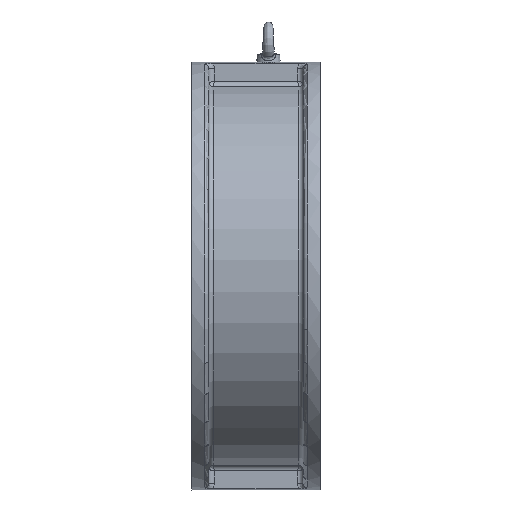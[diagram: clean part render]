
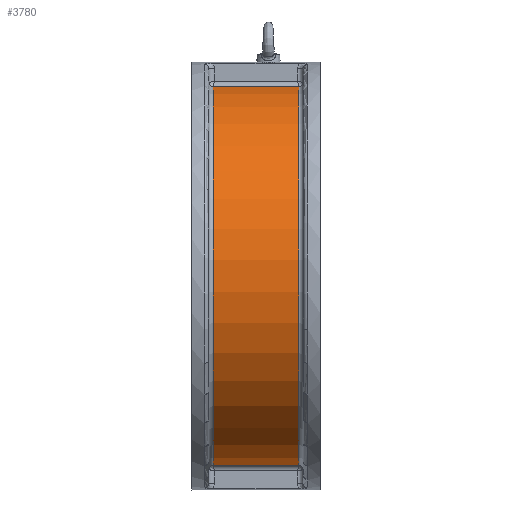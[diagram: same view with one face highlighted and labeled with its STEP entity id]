
A CAD part, left-side view. The second image highlights one B-rep face of the part: STEP entity #3780.
In plain terms, the highlighted cylindrical face has radius 170 mm (diameter 340 mm), a partial arc.
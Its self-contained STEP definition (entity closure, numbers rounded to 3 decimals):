
#159 = ORIENTED_EDGE ( 'NONE', *, *, #4117, .T. ) ;
#601 = EDGE_CURVE ( 'NONE', #7666, #10387, #10035, .T. ) ;
#655 = CARTESIAN_POINT ( 'NONE',  ( 3157.121, 1305.563, 167.949 ) ) ;
#809 = LINE ( 'NONE', #2650, #2777 ) ;
#921 = AXIS2_PLACEMENT_3D ( 'NONE', #7927, #7180, #3893 ) ;
#1060 = B_SPLINE_CURVE_WITH_KNOTS ( 'NONE', 3,
 ( #8356, #9978, #5140, #9252 ),
 .UNSPECIFIED., .F., .F.,
 ( 4, 4 ),
 ( 0., 0. ),
 .UNSPECIFIED. ) ;
#1112 = CARTESIAN_POINT ( 'NONE',  ( 3157.07, 1305.563, -167.941 ) ) ;
#1279 = DIRECTION ( 'NONE',  ( 0., -1., 0. ) ) ;
#1602 = ORIENTED_EDGE ( 'NONE', *, *, #5311, .T. ) ;
#1847 = CARTESIAN_POINT ( 'NONE',  ( 3157.221, 1305.575, -167.964 ) ) ;
#2145 = DIRECTION ( 'NONE',  ( 1., 0., 0. ) ) ;
#2182 = CARTESIAN_POINT ( 'NONE',  ( 3157.07, 1381.563, -167.941 ) ) ;
#2257 = DIRECTION ( 'NONE',  ( 0., 1., 0. ) ) ;
#2269 = EDGE_CURVE ( 'NONE', #10387, #4897, #5200, .T. ) ;
#2288 = CARTESIAN_POINT ( 'NONE',  ( 3157.07, 1305.563, 167.941 ) ) ;
#2392 = CIRCLE ( 'NONE', #10490, 170. ) ;
#2650 = CARTESIAN_POINT ( 'NONE',  ( 3157.221, 1279.568, -167.964 ) ) ;
#2720 = VERTEX_POINT ( 'NONE', #1847 ) ;
#2777 = VECTOR ( 'NONE', #7536, 1000. ) ;
#2942 = VERTEX_POINT ( 'NONE', #2182 ) ;
#2959 = EDGE_CURVE ( 'NONE', #2720, #6456, #9209, .T. ) ;
#3117 = CARTESIAN_POINT ( 'NONE',  ( 3157.171, 1305.567, 167.957 ) ) ;
#3189 = ORIENTED_EDGE ( 'NONE', *, *, #5855, .T. ) ;
#3633 = CARTESIAN_POINT ( 'NONE',  ( 3157.07, 1381.563, 167.941 ) ) ;
#3660 = VECTOR ( 'NONE', #2257, 1000. ) ;
#3698 = CARTESIAN_POINT ( 'NONE',  ( 3157.221, 1381.551, 167.964 ) ) ;
#3761 = CARTESIAN_POINT ( 'NONE',  ( 3157.121, 1305.563, -167.949 ) ) ;
#3775 = DIRECTION ( 'NONE',  ( 1., 0., 0. ) ) ;
#3780 = ADVANCED_FACE ( 'NONE', ( #6603 ), #9828, .T. ) ;
#3801 = ORIENTED_EDGE ( 'NONE', *, *, #2959, .T. ) ;
#3893 = DIRECTION ( 'NONE',  ( 1., 0., 0. ) ) ;
#4117 = EDGE_CURVE ( 'NONE', #2942, #9545, #1060, .T. ) ;
#4728 = CARTESIAN_POINT ( 'NONE',  ( 3157.221, 1305.575, -167.964 ) ) ;
#4897 = VERTEX_POINT ( 'NONE', #6563 ) ;
#4908 = ORIENTED_EDGE ( 'NONE', *, *, #2269, .T. ) ;
#5140 = CARTESIAN_POINT ( 'NONE',  ( 3157.171, 1381.559, -167.957 ) ) ;
#5200 = LINE ( 'NONE', #8570, #3660 ) ;
#5245 = CARTESIAN_POINT ( 'NONE',  ( 3157.171, 1381.559, 167.957 ) ) ;
#5311 = EDGE_CURVE ( 'NONE', #7244, #2942, #8257, .T. ) ;
#5354 = CARTESIAN_POINT ( 'NONE',  ( 3157.07, 1381.563, 167.941 ) ) ;
#5453 = CARTESIAN_POINT ( 'NONE',  ( 3157.171, 1305.567, -167.957 ) ) ;
#5460 = B_SPLINE_CURVE_WITH_KNOTS ( 'NONE', 3,
 ( #3698, #5245, #10297, #5354 ),
 .UNSPECIFIED., .F., .F.,
 ( 4, 4 ),
 ( 0., 0. ),
 .UNSPECIFIED. ) ;
#5581 = CARTESIAN_POINT ( 'NONE',  ( 3157.221, 1305.575, 167.964 ) ) ;
#5855 = EDGE_CURVE ( 'NONE', #4897, #7244, #5460, .T. ) ;
#6212 = DIRECTION ( 'NONE',  ( 0., -1., 0. ) ) ;
#6251 = ORIENTED_EDGE ( 'NONE', *, *, #601, .T. ) ;
#6257 = CARTESIAN_POINT ( 'NONE',  ( 3157.07, 1305.563, -167.941 ) ) ;
#6456 = VERTEX_POINT ( 'NONE', #1112 ) ;
#6563 = CARTESIAN_POINT ( 'NONE',  ( 3157.221, 1381.551, 167.964 ) ) ;
#6603 = FACE_OUTER_BOUND ( 'NONE', #8377, .T. ) ;
#7091 = ORIENTED_EDGE ( 'NONE', *, *, #8268, .F. ) ;
#7180 = DIRECTION ( 'NONE',  ( 0., -1., 0. ) ) ;
#7244 = VERTEX_POINT ( 'NONE', #3633 ) ;
#7536 = DIRECTION ( 'NONE',  ( 0., -1., 0. ) ) ;
#7633 = EDGE_CURVE ( 'NONE', #9545, #2720, #809, .T. ) ;
#7666 = VERTEX_POINT ( 'NONE', #10066 ) ;
#7927 = CARTESIAN_POINT ( 'NONE',  ( 3183.45, 1381.563, 0. ) ) ;
#7958 = CARTESIAN_POINT ( 'NONE',  ( 3183.45, 1305.563, 0. ) ) ;
#7990 = CARTESIAN_POINT ( 'NONE',  ( 3157.221, 1381.551, -167.964 ) ) ;
#8257 = CIRCLE ( 'NONE', #921, 170. ) ;
#8268 = EDGE_CURVE ( 'NONE', #7666, #6456, #2392, .T. ) ;
#8356 = CARTESIAN_POINT ( 'NONE',  ( 3157.07, 1381.563, -167.941 ) ) ;
#8377 = EDGE_LOOP ( 'NONE', ( #1602, #159, #9260, #3801, #7091, #6251, #4908, #3189 ) ) ;
#8570 = CARTESIAN_POINT ( 'NONE',  ( 3157.221, 1279.568, 167.964 ) ) ;
#8619 = AXIS2_PLACEMENT_3D ( 'NONE', #9491, #6212, #2145 ) ;
#8895 = CARTESIAN_POINT ( 'NONE',  ( 3157.221, 1305.575, 167.964 ) ) ;
#9209 = B_SPLINE_CURVE_WITH_KNOTS ( 'NONE', 3,
 ( #4728, #5453, #3761, #6257 ),
 .UNSPECIFIED., .F., .F.,
 ( 4, 4 ),
 ( 0., 0. ),
 .UNSPECIFIED. ) ;
#9252 = CARTESIAN_POINT ( 'NONE',  ( 3157.221, 1381.551, -167.964 ) ) ;
#9260 = ORIENTED_EDGE ( 'NONE', *, *, #7633, .T. ) ;
#9491 = CARTESIAN_POINT ( 'NONE',  ( 3183.45, 1279.568, 0. ) ) ;
#9545 = VERTEX_POINT ( 'NONE', #7990 ) ;
#9828 = CYLINDRICAL_SURFACE ( 'NONE', #8619, 170. ) ;
#9978 = CARTESIAN_POINT ( 'NONE',  ( 3157.121, 1381.563, -167.949 ) ) ;
#10035 = B_SPLINE_CURVE_WITH_KNOTS ( 'NONE', 3,
 ( #2288, #655, #3117, #8895 ),
 .UNSPECIFIED., .F., .F.,
 ( 4, 4 ),
 ( 0., 0. ),
 .UNSPECIFIED. ) ;
#10066 = CARTESIAN_POINT ( 'NONE',  ( 3157.07, 1305.563, 167.941 ) ) ;
#10297 = CARTESIAN_POINT ( 'NONE',  ( 3157.121, 1381.563, 167.949 ) ) ;
#10387 = VERTEX_POINT ( 'NONE', #5581 ) ;
#10490 = AXIS2_PLACEMENT_3D ( 'NONE', #7958, #1279, #3775 ) ;
